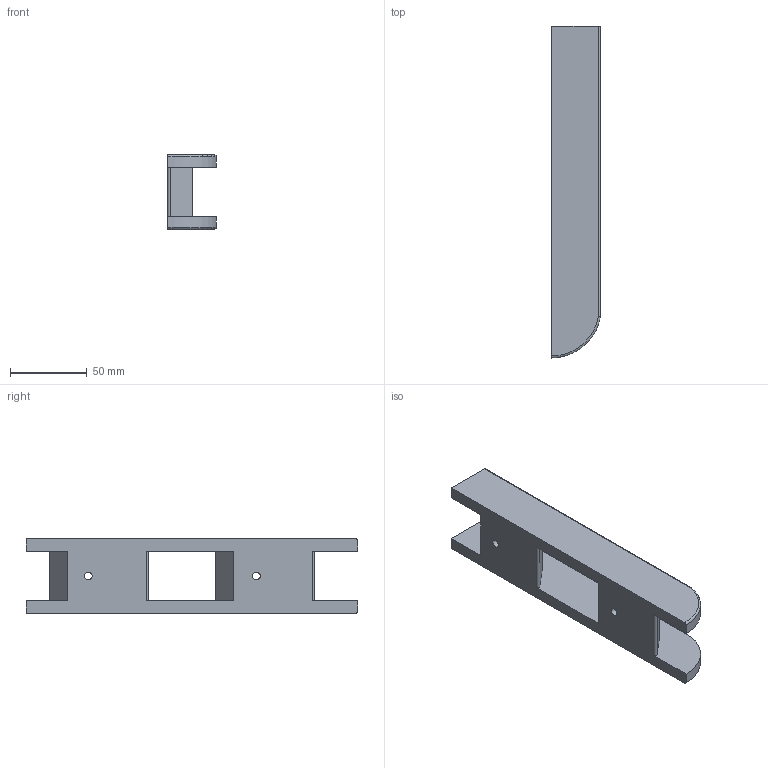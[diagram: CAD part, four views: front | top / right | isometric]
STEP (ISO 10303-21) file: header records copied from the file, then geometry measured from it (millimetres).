
FILE_DESCRIPTION(/* description */ ('STEP AP242','CAx-IF Rec.Pracs.---Representation and Presentation of Product Manufacturing Information (PMI)---4.0---2014-10-13','CAx-IF Rec.Pracs.---3D Tessellated Geometry---0.4---2014-09-14','2;1'),/* implementation_level */ '2;1');
FILE_NAME(/* name */ '677df3e2000d703ebf0fea19',/* time_stamp */ '2025-01-08T03:41:22Z',/* author */ (''),/* organization */ (''),/* preprocessor_version */ 'ST-DEVELOPER v20',/* originating_system */ 'ONSHAPE BY PTC INC, 1.191',/* authorisation */ ' ');
FILE_SCHEMA (('AP242_MANAGED_MODEL_BASED_3D_ENGINEERING_MIM_LF { 1 0 10303 442 1 1 4 }'));
Length unit declared in the file: metre
Products named in the file (1): Wall Bracket-8.5
Bounding box: 31.75 x 215.9 x 48.26 mm (x, y, z)
Volume: 158988.5 mm3; surface area: 40497.4 mm2
Topology: 1 solids, 1 shells, 33 faces, 88 edges, 58 vertices
Faces by surface type: plane 17, cylinder 12, torus 2, cone 2
Full cylindrical faces by diameter (mm): 5.08 x2, 12.7 x2
Entity records: 1024 total; most frequent: CARTESIAN_POINT 178, DIRECTION 174, ORIENTED_EDGE 160, EDGE_CURVE 80, AXIS2_PLACEMENT_3D 62, VERTEX_POINT 56, LINE 50, VECTOR 50
